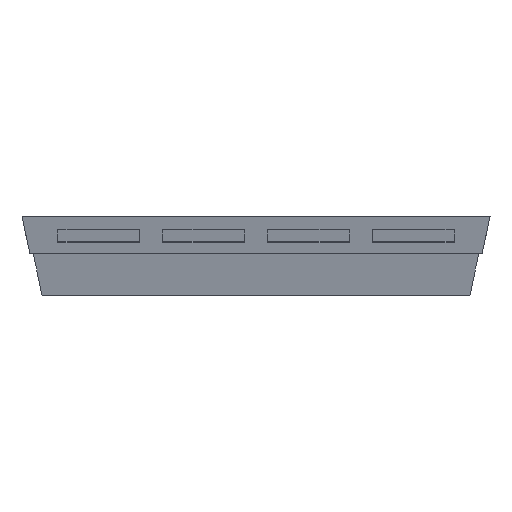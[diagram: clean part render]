
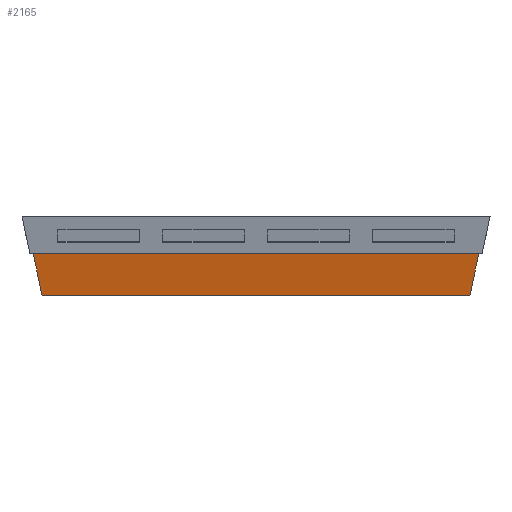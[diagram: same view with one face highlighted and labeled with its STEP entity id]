
A CAD part, left-side view. The second image highlights one B-rep face of the part: STEP entity #2165.
In plain terms, the highlighted free-form (B-spline) face has degree [3, 3] with [4, 4] control points.
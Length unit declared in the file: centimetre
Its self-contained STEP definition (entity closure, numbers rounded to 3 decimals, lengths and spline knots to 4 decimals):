
#448=B_SPLINE_SURFACE_WITH_KNOTS('',3,3,((#3321,#3322,#3323,#3324),(#3325,
#3326,#3327,#3328),(#3329,#3330,#3331,#3332),(#3333,#3334,#3335,#3336)),
 .UNSPECIFIED.,.F.,.F.,.U.,(4,4),(4,4),(0.,1.),(0.,1.),.UNSPECIFIED.);
#499=B_SPLINE_CURVE_WITH_KNOTS('',3,(#3302,#3303,#3304,#3305),
 .UNSPECIFIED.,.F.,.U.,(4,4),(0.,1.),.UNSPECIFIED.);
#500=B_SPLINE_CURVE_WITH_KNOTS('',3,(#3312,#3313,#3314,#3315,#3316,#3317),
 .UNSPECIFIED.,.F.,.U.,(4,2,4),(-1.6578,-0.8289,0.),
 .UNSPECIFIED.);
#665=VERTEX_POINT('',#3301);
#666=VERTEX_POINT('',#3306);
#667=VERTEX_POINT('',#3311);
#668=VERTEX_POINT('',#3318);
#866=VECTOR('',#2573,1.);
#867=VECTOR('',#2574,1.);
#1065=LINE('',#3337,#866);
#1066=LINE('',#3338,#867);
#1311=EDGE_CURVE('',#666,#665,#499,.T.);
#1315=EDGE_CURVE('',#668,#667,#500,.T.);
#1317=EDGE_CURVE('',#666,#667,#1065,.T.);
#1318=EDGE_CURVE('',#665,#668,#1066,.T.);
#1807=ORIENTED_EDGE('',*,*,#1315,.T.);
#1808=ORIENTED_EDGE('',*,*,#1317,.F.);
#1809=ORIENTED_EDGE('',*,*,#1311,.T.);
#1810=ORIENTED_EDGE('',*,*,#1318,.T.);
#1940=EDGE_LOOP('',(#1807,#1808,#1809,#1810));
#2060=FACE_BOUND('',#1940,.T.);
#2165=ADVANCED_FACE('',(#2060),#448,.F.);
#2573=DIRECTION('',(0.,1.,0.));
#2574=DIRECTION('',(0.,1.,0.));
#3301=CARTESIAN_POINT('',(-17.0091,-8.2461,3.015));
#3302=CARTESIAN_POINT('',(-17.3469,-8.5839,1.4275));
#3303=CARTESIAN_POINT('',(-17.2343,-8.4713,1.9566));
#3304=CARTESIAN_POINT('',(-17.1217,-8.3587,2.4858));
#3305=CARTESIAN_POINT('',(-17.0091,-8.2461,3.015));
#3306=CARTESIAN_POINT('',(-17.3469,-8.5839,1.4275));
#3311=CARTESIAN_POINT('',(-17.3469,8.5839,1.4275));
#3312=CARTESIAN_POINT('',(-17.0091,8.2461,3.015));
#3313=CARTESIAN_POINT('',(-17.0654,8.3024,2.7504));
#3314=CARTESIAN_POINT('',(-17.1217,8.3587,2.4858));
#3315=CARTESIAN_POINT('',(-17.2343,8.4713,1.9566));
#3316=CARTESIAN_POINT('',(-17.2906,8.5276,1.6921));
#3317=CARTESIAN_POINT('',(-17.3469,8.5839,1.4275));
#3318=CARTESIAN_POINT('',(-17.0091,8.2461,3.015));
#3321=CARTESIAN_POINT('',(-17.3469,-8.5839,1.4275));
#3322=CARTESIAN_POINT('',(-17.2343,-8.4713,1.9566));
#3323=CARTESIAN_POINT('',(-17.1217,-8.3587,2.4858));
#3324=CARTESIAN_POINT('',(-17.0091,-8.2461,3.015));
#3325=CARTESIAN_POINT('',(-17.3469,-2.8609,1.4275));
#3326=CARTESIAN_POINT('',(-17.2343,-2.8234,1.9566));
#3327=CARTESIAN_POINT('',(-17.1217,-2.7858,2.4858));
#3328=CARTESIAN_POINT('',(-17.0091,-2.7483,3.015));
#3329=CARTESIAN_POINT('',(-17.3469,2.8622,1.4275));
#3330=CARTESIAN_POINT('',(-17.2343,2.8246,1.9566));
#3331=CARTESIAN_POINT('',(-17.1217,2.7871,2.4858));
#3332=CARTESIAN_POINT('',(-17.0091,2.7496,3.015));
#3333=CARTESIAN_POINT('',(-17.3469,8.5852,1.4275));
#3334=CARTESIAN_POINT('',(-17.2343,8.4726,1.9566));
#3335=CARTESIAN_POINT('',(-17.1217,8.36,2.4858));
#3336=CARTESIAN_POINT('',(-17.0091,8.2474,3.015));
#3337=CARTESIAN_POINT('',(-17.3469,-8.5839,1.4275));
#3338=CARTESIAN_POINT('',(-17.0091,-8.2461,3.015));
